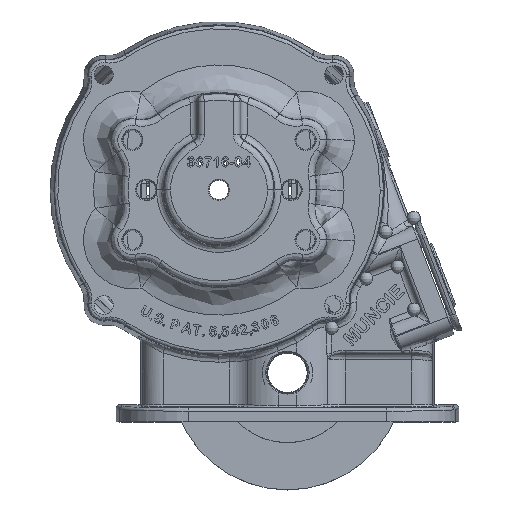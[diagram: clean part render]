
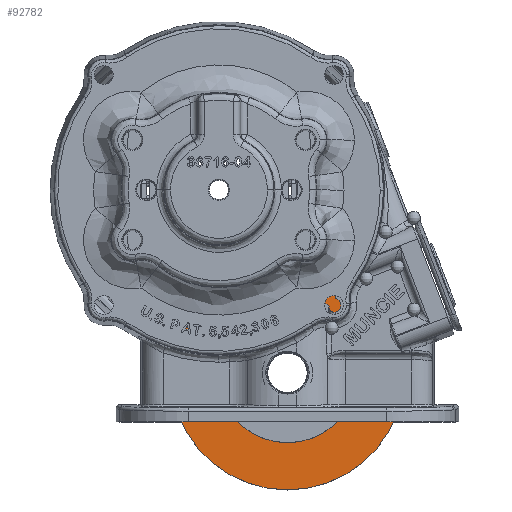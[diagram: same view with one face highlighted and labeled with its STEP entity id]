
A CAD part, top view. The second image highlights one B-rep face of the part: STEP entity #92782.
In plain terms, the highlighted planar face has unit normal (0, 0, 1).
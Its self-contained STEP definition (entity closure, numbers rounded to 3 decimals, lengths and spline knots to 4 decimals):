
#24850 = CARTESIAN_POINT ( 'NONE',  ( 0.2973, -2.6645, -0.2777 ) ) ;
#24854 = CARTESIAN_POINT ( 'NONE',  ( 0.2973, -0.2645, -0.2777 ) ) ;
#24867 = CARTESIAN_POINT ( 'NONE',  ( 0.2973, 0.6705, -0.2777 ) ) ;
#24873 = CARTESIAN_POINT ( 'NONE',  ( 0.2973, -3.5995, -0.2777 ) ) ;
#30688 = CARTESIAN_POINT ( 'NONE',  ( 0.2973, -1.4645, -0.2777 ) ) ;
#30689 = DIRECTION ( 'NONE',  ( 0., 0., 1. ) ) ;
#30690 = DIRECTION ( 'NONE',  ( 0., -1., 0. ) ) ;
#30705 = CARTESIAN_POINT ( 'NONE',  ( 0.2973, -1.4645, -0.2777 ) ) ;
#30706 = DIRECTION ( 'NONE',  ( 0., 0., 1. ) ) ;
#30707 = DIRECTION ( 'NONE',  ( 0., -1., 0. ) ) ;
#30733 = CARTESIAN_POINT ( 'NONE',  ( 0.2973, -1.4645, -0.2777 ) ) ;
#30734 = DIRECTION ( 'NONE',  ( 0., 0., 1. ) ) ;
#30735 = DIRECTION ( 'NONE',  ( 0., -1., 0. ) ) ;
#30736 = CARTESIAN_POINT ( 'NONE',  ( 0.2973, -1.4645, -0.2777 ) ) ;
#30737 = DIRECTION ( 'NONE',  ( 0., 0., 1. ) ) ;
#30738 = DIRECTION ( 'NONE',  ( 0., -1., 0. ) ) ;
#57843 = VERTEX_POINT ( 'NONE', #24854 ) ;
#57844 = VERTEX_POINT ( 'NONE', #24850 ) ;
#57853 = VERTEX_POINT ( 'NONE', #24867 ) ;
#57856 = VERTEX_POINT ( 'NONE', #24873 ) ;
#65479 = ORIENTED_EDGE ( 'NONE', *, *, #67558, .T. ) ;
#65480 = ORIENTED_EDGE ( 'NONE', *, *, #67540, .T. ) ;
#65481 = ORIENTED_EDGE ( 'NONE', *, *, #67557, .F. ) ;
#65482 = ORIENTED_EDGE ( 'NONE', *, *, #67547, .F. ) ;
#67540 = EDGE_CURVE ( 'NONE', #57856, #57853, #76552, .T. ) ;
#67547 = EDGE_CURVE ( 'NONE', #57844, #57843, #76539, .T. ) ;
#67557 = EDGE_CURVE ( 'NONE', #57843, #57844, #76523, .T. ) ;
#67558 = EDGE_CURVE ( 'NONE', #57853, #57856, #76521, .T. ) ;
#75795 = AXIS2_PLACEMENT_3D ( 'NONE', #103692, #103719, #103720 ) ;
#76518 = AXIS2_PLACEMENT_3D ( 'NONE', #30736, #30737, #30738 ) ;
#76520 = AXIS2_PLACEMENT_3D ( 'NONE', #30733, #30734, #30735 ) ;
#76521 = CIRCLE ( 'NONE', #76518, 2.135 ) ;
#76523 = CIRCLE ( 'NONE', #76520, 1.2 ) ;
#76537 = AXIS2_PLACEMENT_3D ( 'NONE', #30705, #30706, #30707 ) ;
#76539 = CIRCLE ( 'NONE', #76537, 1.2 ) ;
#76546 = AXIS2_PLACEMENT_3D ( 'NONE', #30688, #30689, #30690 ) ;
#76552 = CIRCLE ( 'NONE', #76546, 2.135 ) ;
#77772 = EDGE_LOOP ( 'NONE', ( #65479, #65480 ) ) ;
#77817 = EDGE_LOOP ( 'NONE', ( #65481, #65482 ) ) ;
#92782 = ADVANCED_FACE ( 'NONE', ( #103712, #103714 ), #103716, .T. ) ;
#103692 = CARTESIAN_POINT ( 'NONE',  ( 0.2973, -1.4645, -0.2777 ) ) ;
#103712 = FACE_OUTER_BOUND ( 'NONE', #77772, .T. ) ;
#103714 = FACE_BOUND ( 'NONE', #77817, .T. ) ;
#103716 = PLANE ( 'NONE',  #75795 ) ;
#103719 = DIRECTION ( 'NONE',  ( 0., 0., 1. ) ) ;
#103720 = DIRECTION ( 'NONE',  ( 0., -1., 0. ) ) ;
